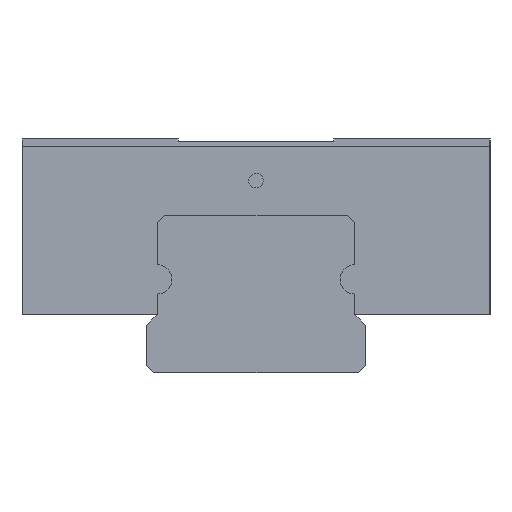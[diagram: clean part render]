
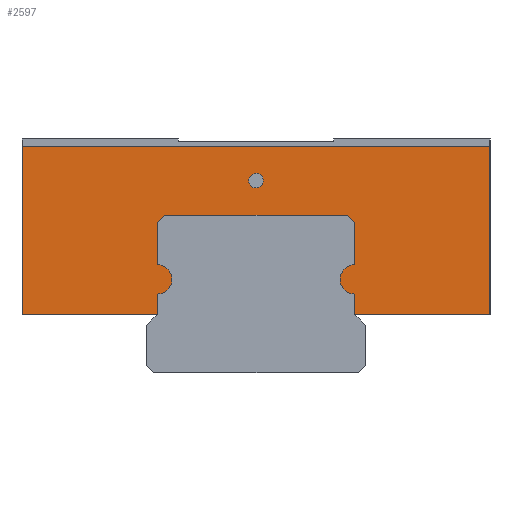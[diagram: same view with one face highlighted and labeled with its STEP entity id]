
A CAD part, left-side view. The second image highlights one B-rep face of the part: STEP entity #2597.
In plain terms, the highlighted planar face has unit normal (-1, 0, 0).
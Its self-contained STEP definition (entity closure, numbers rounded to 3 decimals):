
#1813=CARTESIAN_POINT('',(92.327,0.5,13.15));
#1814=VERTEX_POINT('',#1813);
#1815=CARTESIAN_POINT('',(92.327,0.0,13.15));
#1816=DIRECTION('',(1.0,0.0,0.0));
#1817=DIRECTION('',(0.0,-1.0,0.0));
#1818=AXIS2_PLACEMENT_3D('',#1815,#1816,#1817);
#1819=CIRCLE('',#1818,0.5);
#1820=EDGE_CURVE('',#1814,#1814,#1819,.T.);
#2086=CARTESIAN_POINT('',(92.327,16.,15.5));
#2087=VERTEX_POINT('',#2086);
#2094=CARTESIAN_POINT('',(92.327,-16.,15.5));
#2095=VERTEX_POINT('',#2094);
#2096=CARTESIAN_POINT('',(92.327,-16.,15.5));
#2097=DIRECTION('',(0.0,1.0,0.0));
#2098=VECTOR('',#2097,32.0);
#2099=LINE('',#2096,#2098);
#2100=EDGE_CURVE('',#2095,#2087,#2099,.T.);
#2155=CARTESIAN_POINT('',(92.327,16.,4.0));
#2156=VERTEX_POINT('',#2155);
#2163=CARTESIAN_POINT('',(92.327,16.,15.5));
#2164=DIRECTION('',(0.0,0.0,-1.0));
#2165=VECTOR('',#2164,11.5);
#2166=LINE('',#2163,#2165);
#2167=EDGE_CURVE('',#2087,#2156,#2166,.T.);
#2190=CARTESIAN_POINT('',(92.327,6.75,4.0));
#2191=VERTEX_POINT('',#2190);
#2198=CARTESIAN_POINT('',(92.327,16.,4.0));
#2199=DIRECTION('',(0.0,-1.0,0.0));
#2200=VECTOR('',#2199,9.25);
#2201=LINE('',#2198,#2200);
#2202=EDGE_CURVE('',#2156,#2191,#2201,.T.);
#2221=CARTESIAN_POINT('',(92.327,6.75,5.4));
#2222=VERTEX_POINT('',#2221);
#2229=CARTESIAN_POINT('',(92.327,6.75,4.0));
#2230=DIRECTION('',(0.0,0.0,1.0));
#2231=VECTOR('',#2230,1.4);
#2232=LINE('',#2229,#2231);
#2233=EDGE_CURVE('',#2191,#2222,#2232,.T.);
#2253=CARTESIAN_POINT('',(92.327,6.75,7.4));
#2254=VERTEX_POINT('',#2253);
#2261=CARTESIAN_POINT('',(92.327,6.75,6.4));
#2262=DIRECTION('',(-1.0,0.0,0.0));
#2263=DIRECTION('',(0.0,0.0,-1.0));
#2264=AXIS2_PLACEMENT_3D('',#2261,#2262,#2263);
#2265=CIRCLE('',#2264,1.0);
#2266=EDGE_CURVE('',#2222,#2254,#2265,.T.);
#2285=CARTESIAN_POINT('',(92.327,6.75,10.3));
#2286=VERTEX_POINT('',#2285);
#2293=CARTESIAN_POINT('',(92.327,6.75,7.4));
#2294=DIRECTION('',(0.0,0.0,1.0));
#2295=VECTOR('',#2294,2.9);
#2296=LINE('',#2293,#2295);
#2297=EDGE_CURVE('',#2254,#2286,#2296,.T.);
#2316=CARTESIAN_POINT('',(92.327,6.25,10.8));
#2317=VERTEX_POINT('',#2316);
#2324=CARTESIAN_POINT('',(92.327,6.75,10.3));
#2325=DIRECTION('',(0.0,-0.707,0.707));
#2326=VECTOR('',#2325,0.707);
#2327=LINE('',#2324,#2326);
#2328=EDGE_CURVE('',#2286,#2317,#2327,.T.);
#2347=CARTESIAN_POINT('',(92.327,-6.25,10.8));
#2348=VERTEX_POINT('',#2347);
#2355=CARTESIAN_POINT('',(92.327,6.25,10.8));
#2356=DIRECTION('',(0.0,-1.0,0.0));
#2357=VECTOR('',#2356,12.5);
#2358=LINE('',#2355,#2357);
#2359=EDGE_CURVE('',#2317,#2348,#2358,.T.);
#2378=CARTESIAN_POINT('',(92.327,-6.75,10.3));
#2379=VERTEX_POINT('',#2378);
#2386=CARTESIAN_POINT('',(92.327,-6.25,10.8));
#2387=DIRECTION('',(0.0,-0.707,-0.707));
#2388=VECTOR('',#2387,0.707);
#2389=LINE('',#2386,#2388);
#2390=EDGE_CURVE('',#2348,#2379,#2389,.T.);
#2409=CARTESIAN_POINT('',(92.327,-6.75,7.4));
#2410=VERTEX_POINT('',#2409);
#2417=CARTESIAN_POINT('',(92.327,-6.75,10.3));
#2418=DIRECTION('',(0.0,0.0,-1.0));
#2419=VECTOR('',#2418,2.9);
#2420=LINE('',#2417,#2419);
#2421=EDGE_CURVE('',#2379,#2410,#2420,.T.);
#2441=CARTESIAN_POINT('',(92.327,-6.75,5.4));
#2442=VERTEX_POINT('',#2441);
#2449=CARTESIAN_POINT('',(92.327,-6.75,6.4));
#2450=DIRECTION('',(-1.0,0.0,0.0));
#2451=DIRECTION('',(0.0,0.0,1.0));
#2452=AXIS2_PLACEMENT_3D('',#2449,#2450,#2451);
#2453=CIRCLE('',#2452,1.0);
#2454=EDGE_CURVE('',#2410,#2442,#2453,.T.);
#2473=CARTESIAN_POINT('',(92.327,-6.75,4.0));
#2474=VERTEX_POINT('',#2473);
#2481=CARTESIAN_POINT('',(92.327,-6.75,5.4));
#2482=DIRECTION('',(0.0,0.0,-1.0));
#2483=VECTOR('',#2482,1.4);
#2484=LINE('',#2481,#2483);
#2485=EDGE_CURVE('',#2442,#2474,#2484,.T.);
#2504=CARTESIAN_POINT('',(92.327,-16.,4.0));
#2505=VERTEX_POINT('',#2504);
#2512=CARTESIAN_POINT('',(92.327,-6.75,4.0));
#2513=DIRECTION('',(0.0,-1.0,0.0));
#2514=VECTOR('',#2513,9.25);
#2515=LINE('',#2512,#2514);
#2516=EDGE_CURVE('',#2474,#2505,#2515,.T.);
#2538=CARTESIAN_POINT('',(92.327,-16.,4.0));
#2539=DIRECTION('',(0.0,0.0,1.0));
#2540=VECTOR('',#2539,11.5);
#2541=LINE('',#2538,#2540);
#2542=EDGE_CURVE('',#2505,#2095,#2541,.T.);
#2573=CARTESIAN_POINT('',(92.327,0.,10.253));
#2574=DIRECTION('',(1.0,0.0,0.0));
#2575=DIRECTION('',(0.0,0.0,-1.0));
#2576=AXIS2_PLACEMENT_3D('',#2573,#2574,#2575);
#2577=PLANE('',#2576);
#2578=ORIENTED_EDGE('',*,*,#2542,.T.);
#2579=ORIENTED_EDGE('',*,*,#2100,.T.);
#2580=ORIENTED_EDGE('',*,*,#2167,.T.);
#2581=ORIENTED_EDGE('',*,*,#2202,.T.);
#2582=ORIENTED_EDGE('',*,*,#2233,.T.);
#2583=ORIENTED_EDGE('',*,*,#2266,.T.);
#2584=ORIENTED_EDGE('',*,*,#2297,.T.);
#2585=ORIENTED_EDGE('',*,*,#2328,.T.);
#2586=ORIENTED_EDGE('',*,*,#2359,.T.);
#2587=ORIENTED_EDGE('',*,*,#2390,.T.);
#2588=ORIENTED_EDGE('',*,*,#2421,.T.);
#2589=ORIENTED_EDGE('',*,*,#2454,.T.);
#2590=ORIENTED_EDGE('',*,*,#2485,.T.);
#2591=ORIENTED_EDGE('',*,*,#2516,.T.);
#2592=EDGE_LOOP('',(#2578,#2579,#2580,#2581,#2582,#2583,#2584,#2585,#2586,#2587,#2588,#2589,#2590,#2591));
#2593=FACE_OUTER_BOUND('',#2592,.T.);
#2594=ORIENTED_EDGE('',*,*,#1820,.T.);
#2595=EDGE_LOOP('',(#2594));
#2596=FACE_BOUND('',#2595,.T.);
#2597=ADVANCED_FACE('',(#2593,#2596),#2577,.F.);
